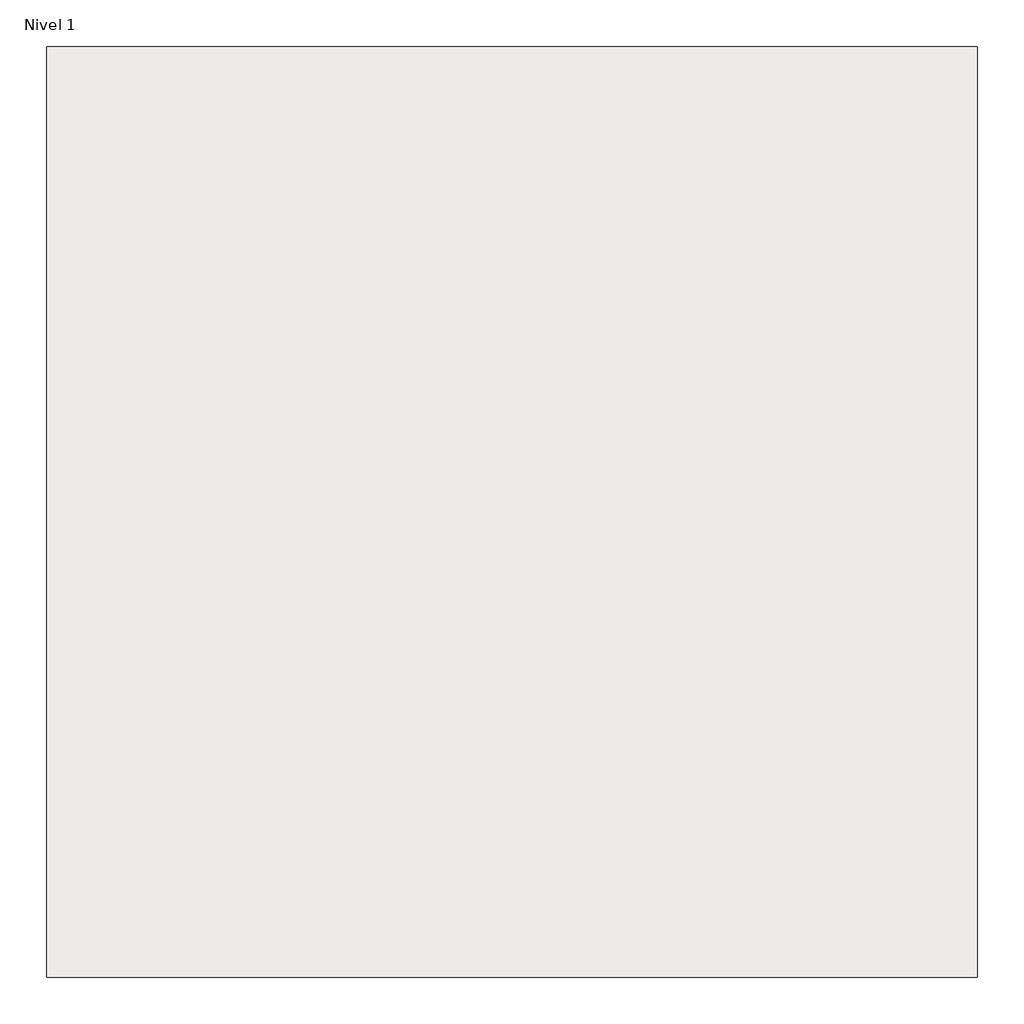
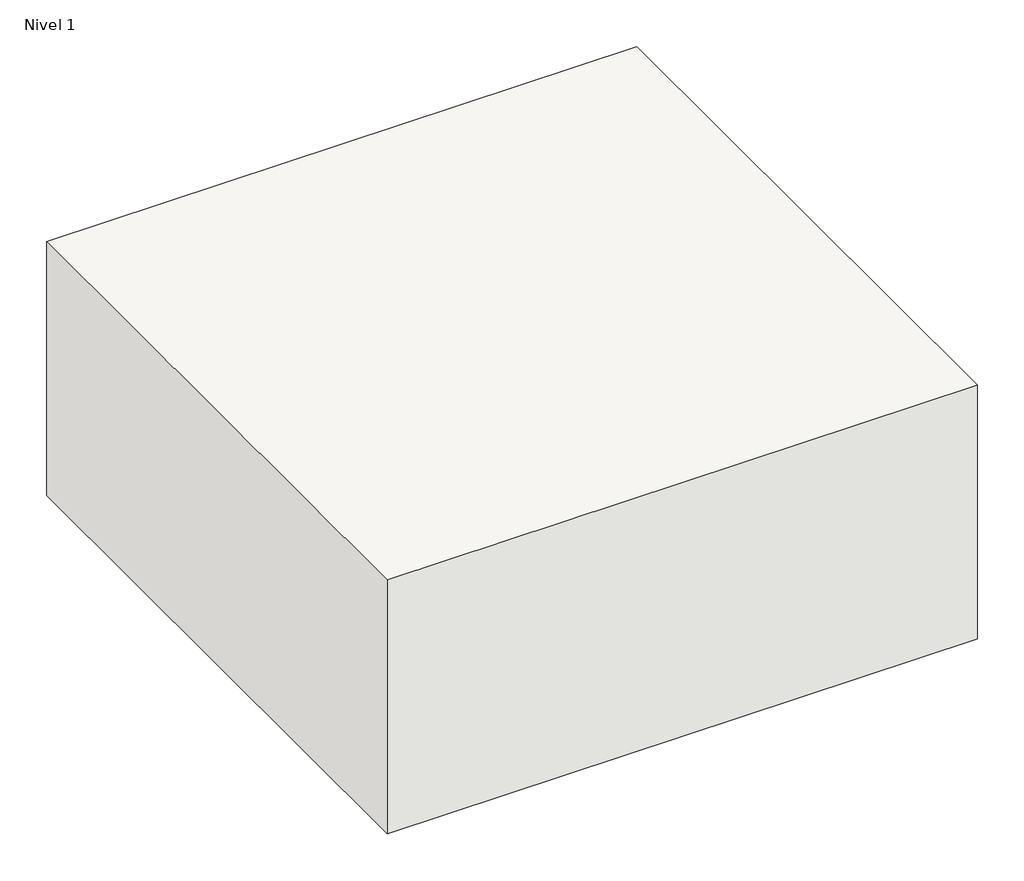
# One storey: 1 roof.
"""IFC4 building model written with IfcOpenShell, lengths in millimetres."""

from ifc_helpers import new_model, si_unit, origin, origin_with_axes, place, context, project, spatial, polyline, outline, extrude, element, save

model = new_model("IFC4")

# Units and contexts
model_context = context("Model", 3, world=origin())
ifc_project = project(units=[si_unit("LENGTHUNIT", "METRE", prefix="MILLI")], contexts=[model_context])

# Site, building, storey
site = spatial("IfcSite", under=ifc_project)
building = spatial("IfcBuilding", under=site)
storey = spatial("IfcBuildingStorey", under=building, Name="Nivel 1", Elevation=0.0)

# Roof
placement = place(None, origin())
element("IfcRoof", 1, ObjectType="Cubierta plana transitable convencional con solado fijo_plancha poliuretano", at=placement, inside=storey, context=model_context, shape_type="SweptSolid", body=[
    extrude(outline(polyline([(-3013.2553136, 4631.8256744), (-3013.2553136, 3631.8256744), (-4013.2553136, 3631.8256744), (-4013.2553136, 4631.8256744), (-3013.2553136, 4631.8256744)])), origin_with_axes(), (0.0, 0.0, 1.0), 455.0),
])

save(model, "model.ifc")
